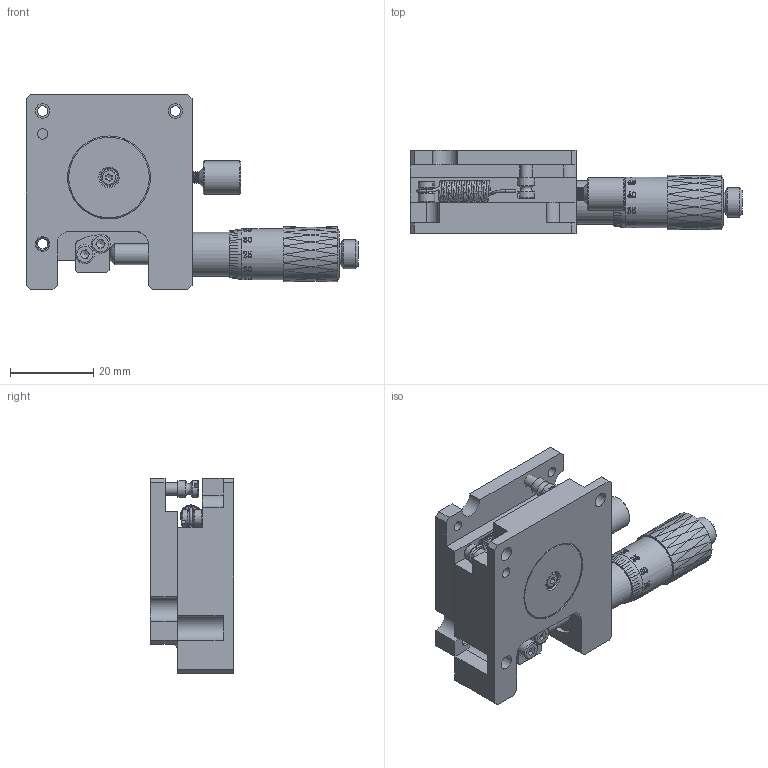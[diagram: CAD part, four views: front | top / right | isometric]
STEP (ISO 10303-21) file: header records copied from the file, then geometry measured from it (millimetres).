
FILE_DESCRIPTION (( 'STEP AP203' ), '1' );
FILE_NAME ('BFR40.STEP', '2024-07-09T12:32:02', ( 'Windows User' ), ( 'P R C' ), 'SwSTEP 2.0', 'SolidWorks 2024', '' );
FILE_SCHEMA (( 'CONFIG_CONTROL_DESIGN' ));
Length unit declared in the file: millimetre
Products named in the file (1): BFR40
Bounding box: 80 x 20 x 47 mm (x, y, z)
Volume: 31095.6 mm3; surface area: 20769.1 mm2
Topology: 19 solids, 19 shells, 1052 faces, 2530 edges, 1639 vertices
Faces by surface type: bspline 402, plane 304, cylinder 193, cone 143, torus 9, sphere 1
Full cylindrical faces by diameter (mm): 1.6 x1, 2 x1, 2.05 x7, 2.4 x1, 2.5 x15, 2.8 x2, 2.9 x4, 3 x3, 3.5 x3, 3.8 x1, 4 x4, 4.3 x1, 4.5 x6, 5 x7, 6 x3, 7 x1, 8 x1, 8.5 x1, 9.5 x2, 10.5 x1, 12.2 x1, 15.4 x1, 16 x4, 20 x2
Entity records: 68153 total; most frequent: CARTESIAN_POINT 48115, ORIENTED_EDGE 4712, DIRECTION 2617, EDGE_CURVE 2356, VERTEX_POINT 1602, B_SPLINE_CURVE_WITH_KNOTS 1362, EDGE_LOOP 1354, FACE_OUTER_BOUND 1139
